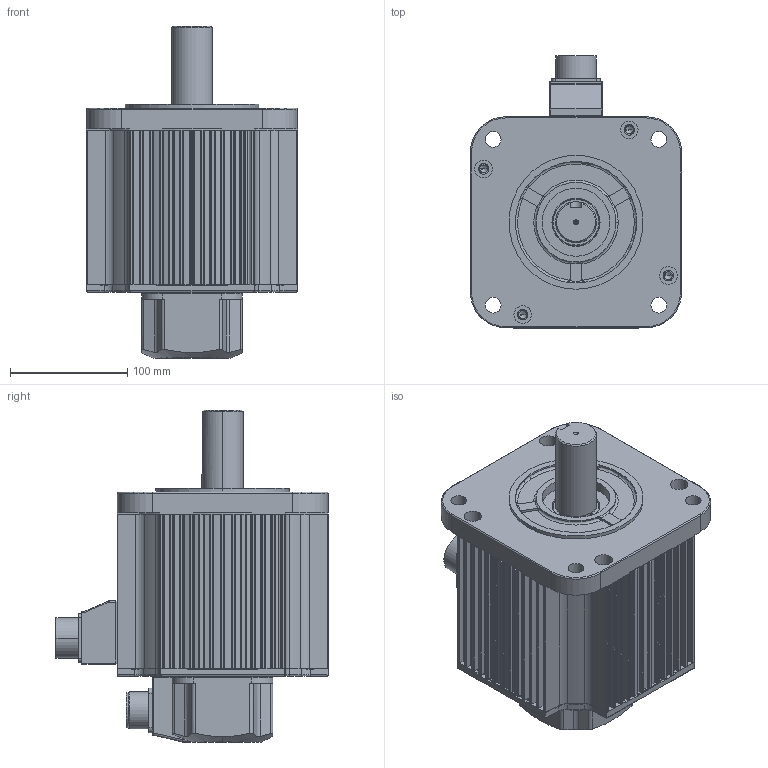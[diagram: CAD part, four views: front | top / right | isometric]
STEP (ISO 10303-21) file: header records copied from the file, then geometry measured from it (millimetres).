
FILE_DESCRIPTION (( 'STEP AP214' ), '1' );
FILE_NAME ('KAND-45B¡à1N2.STEP', '2026-09-12T03:08:22', ( '' ), ( '' ), 'SwSTEP 2.0', 'SolidWorks 2023', '' );
FILE_SCHEMA (( 'AUTOMOTIVE_DESIGN' ));
Length unit declared in the file: millimetre
Products named in the file (11): □180-131.5mm; MS3102A 20-29P; □180 BRACKET_BR; MS3102A 22_표준; 10050523 GASKET_돌출형; □180 FLANGE; 10050907 RUBBER SEAL_MS22 or MS24; 1005052200 ENCODER COVER; 10050908 CONNECTOR BOX_MS22 or MS24; KAND-45B□1N2; Ø35-KEY10X50
Assembly tree (10 placements, depth 2):
  KAND-45B□1N2
    □180-131.5mm
    □180 FLANGE
    □180 BRACKET_BR
    1005052200 ENCODER COVER
    10050523 GASKET_돌출형
    MS3102A 20-29P
    Ø35-KEY10X50
    10050907 RUBBER SEAL_MS22 or MS24
    10050908 CONNECTOR BOX_MS22 or MS24
    MS3102A 22_표준
Bounding box: 180 x 232.05 x 283.2 mm (x, y, z)
Volume: 1479446.8 mm3; surface area: 512430.1 mm2
Topology: 10 solids, 10 shells, 1748 faces, 4798 edges, 3124 vertices
Faces by surface type: cylinder 912, plane 605, torus 122, cone 72, bspline 35, sphere 2
Entity records: 59123 total; most frequent: CARTESIAN_POINT 13295, DIRECTION 9938, ORIENTED_EDGE 9524, EDGE_CURVE 4762, AXIS2_PLACEMENT_3D 3823, VERTEX_POINT 3124, VECTOR 2292, LINE 2292
